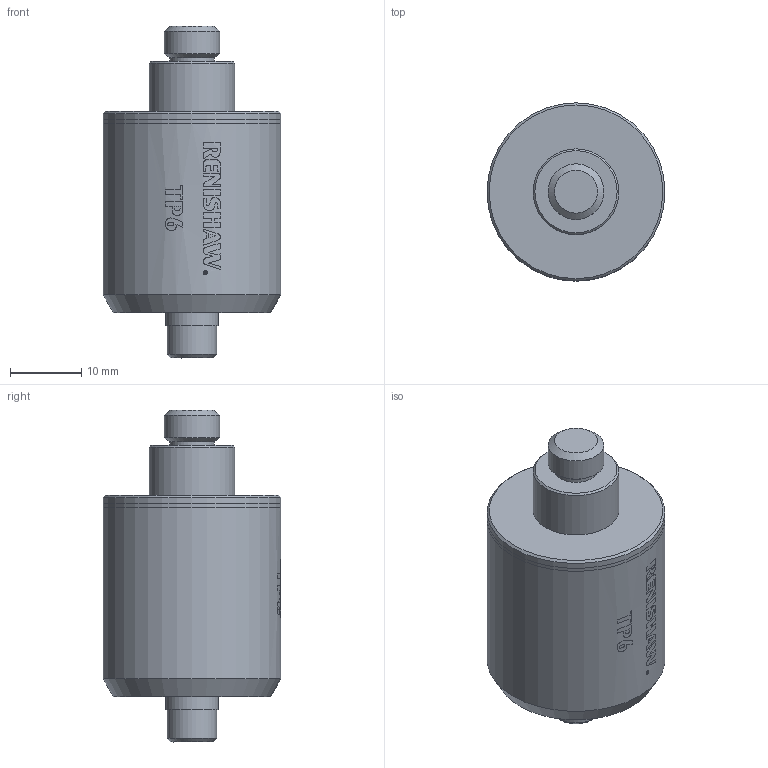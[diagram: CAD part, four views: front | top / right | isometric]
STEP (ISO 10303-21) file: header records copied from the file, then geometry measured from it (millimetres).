
FILE_DESCRIPTION(/* description */ (''),/* implementation_level */ '2;1');
FILE_NAME(/* name */ 'LA-1039-0050#-C.stp',/* time_stamp */ '2012-09-07T10:26:56+01:00',/* author */ (''),/* organization */ (''),/* preprocessor_version */ 'ST-DEVELOPER v11',/* originating_system */ 'SIEMENS PLM Software NX 7.5',/* authorisation */ '');
FILE_SCHEMA (('AUTOMOTIVE_DESIGN { 1 0 10303 214 1 1 1 1 }'));
Length unit declared in the file: millimetre
Products named in the file (1): rt13371Ayv4t
Bounding box: 24.9 x 24.9 x 46.45 mm (x, y, z)
Volume: 14517.2 mm3; surface area: 3770.6 mm2
Topology: 1 solids, 1 shells, 45 faces, 228 edges, 208 vertices
Faces by surface type: cylinder 27, cone 9, plane 8, torus 1
Full cylindrical faces by diameter (mm): 2.6 x1, 6.274 x1, 6.96 x1, 7.3 x1, 7.794 x1, 12 x1, 14 x1, 24.9 x3
Entity records: 2978 total; most frequent: CARTESIAN_POINT 1094, ORIENTED_EDGE 406, VERTEX_POINT 203, EDGE_CURVE 203, DIRECTION 167, B_SPLINE_CURVE_WITH_KNOTS 162, EDGE_LOOP 88, AXIS2_PLACEMENT_3D 80
